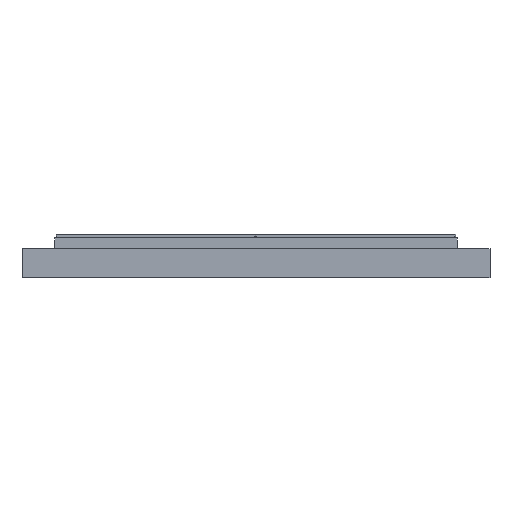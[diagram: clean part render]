
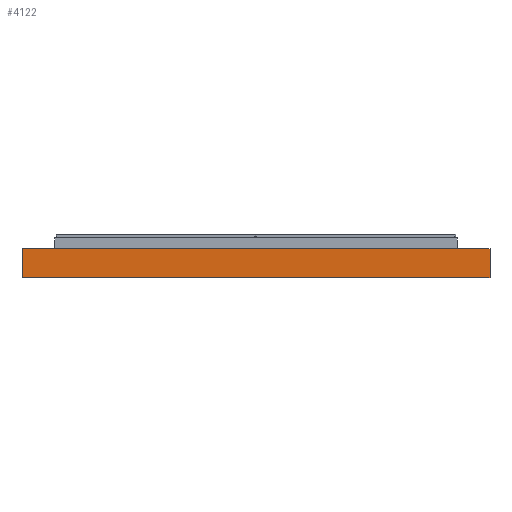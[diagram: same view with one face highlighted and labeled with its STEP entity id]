
A CAD part, front view. The second image highlights one B-rep face of the part: STEP entity #4122.
In plain terms, the highlighted planar face has unit normal (-0.035, -0.999, 0).
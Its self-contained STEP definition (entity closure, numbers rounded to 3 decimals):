
#744 = CARTESIAN_POINT ( 'NONE',  ( 64.5, 549.773, 0. ) ) ;
#881 = EDGE_LOOP ( 'NONE', ( #4827, #12767, #6030, #7903 ) ) ;
#1233 = EDGE_CURVE ( 'NONE', #4321, #5239, #10274, .T. ) ;
#1868 = DIRECTION ( 'NONE',  ( -0.035, -0.999, 0. ) ) ;
#1927 = CARTESIAN_POINT ( 'NONE',  ( 65., 549.755, 8. ) ) ;
#2395 = FACE_OUTER_BOUND ( 'NONE', #881, .T. ) ;
#2460 = VECTOR ( 'NONE', #14818, 1000. ) ;
#3519 = EDGE_CURVE ( 'NONE', #4321, #8749, #11007, .T. ) ;
#3565 = CARTESIAN_POINT ( 'NONE',  ( -64.5, 554.277, 0. ) ) ;
#4068 = DIRECTION ( 'NONE',  ( -0.999, 0.035, 0. ) ) ;
#4122 = ADVANCED_FACE ( 'NONE', ( #2395 ), #5754, .T. ) ;
#4321 = VERTEX_POINT ( 'NONE', #4861 ) ;
#4827 = ORIENTED_EDGE ( 'NONE', *, *, #14509, .F. ) ;
#4861 = CARTESIAN_POINT ( 'NONE',  ( 64.5, 549.773, 8. ) ) ;
#5239 = VERTEX_POINT ( 'NONE', #744 ) ;
#5442 = CARTESIAN_POINT ( 'NONE',  ( 65., 549.755, 8. ) ) ;
#5754 = PLANE ( 'NONE',  #15993 ) ;
#6030 = ORIENTED_EDGE ( 'NONE', *, *, #1233, .F. ) ;
#6314 = VERTEX_POINT ( 'NONE', #3565 ) ;
#6783 = DIRECTION ( 'NONE',  ( 0., 0., -1. ) ) ;
#7077 = DIRECTION ( 'NONE',  ( 0., 0., 1. ) ) ;
#7147 = LINE ( 'NONE', #10794, #15518 ) ;
#7681 = VECTOR ( 'NONE', #4068, 1000. ) ;
#7903 = ORIENTED_EDGE ( 'NONE', *, *, #3519, .T. ) ;
#8749 = VERTEX_POINT ( 'NONE', #15427 ) ;
#9641 = LINE ( 'NONE', #12699, #14883 ) ;
#9915 = CARTESIAN_POINT ( 'NONE',  ( 64.5, 549.773, 8. ) ) ;
#10274 = LINE ( 'NONE', #9915, #2460 ) ;
#10794 = CARTESIAN_POINT ( 'NONE',  ( -64.5, 554.277, 8. ) ) ;
#11007 = LINE ( 'NONE', #5442, #7681 ) ;
#12699 = CARTESIAN_POINT ( 'NONE',  ( 65., 549.755, 0. ) ) ;
#12767 = ORIENTED_EDGE ( 'NONE', *, *, #15852, .F. ) ;
#12811 = DIRECTION ( 'NONE',  ( -0.999, 0.035, 0. ) ) ;
#14509 = EDGE_CURVE ( 'NONE', #6314, #8749, #7147, .T. ) ;
#14818 = DIRECTION ( 'NONE',  ( 0., 0., -1. ) ) ;
#14883 = VECTOR ( 'NONE', #12811, 1000. ) ;
#15427 = CARTESIAN_POINT ( 'NONE',  ( -64.5, 554.277, 8. ) ) ;
#15518 = VECTOR ( 'NONE', #7077, 1000. ) ;
#15852 = EDGE_CURVE ( 'NONE', #5239, #6314, #9641, .T. ) ;
#15993 = AXIS2_PLACEMENT_3D ( 'NONE', #1927, #1868, #6783 ) ;
